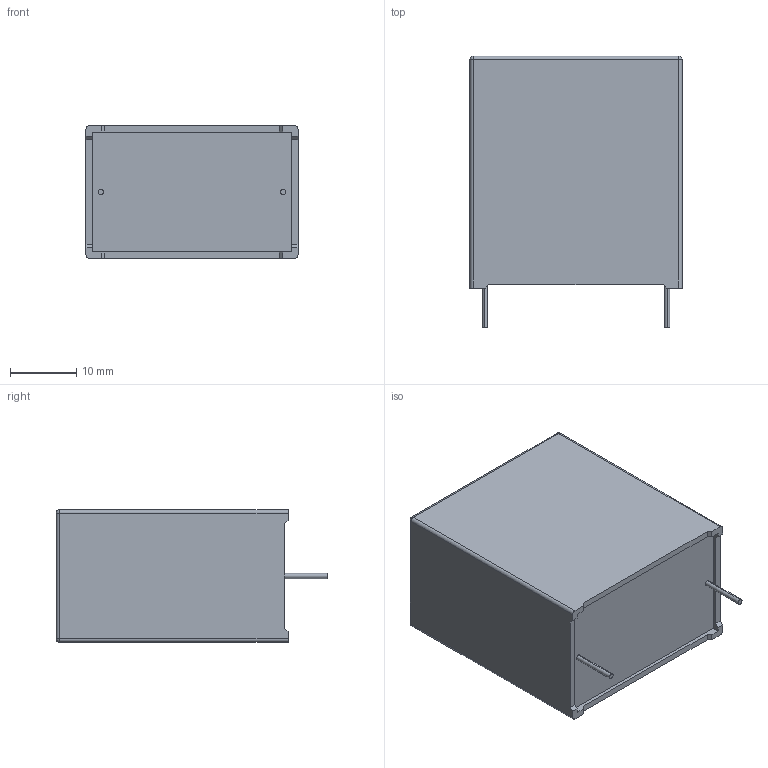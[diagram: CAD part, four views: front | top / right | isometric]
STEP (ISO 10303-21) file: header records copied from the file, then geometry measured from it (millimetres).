
FILE_DESCRIPTION (( 'STEP AP203' ), '1' );
FILE_NAME ('DC_Link_20x35x32_2pins.step', '2017-04-03T15:59:48', ( 'work' ), ( 'Hewlett-Packard Company' ), 'SwSTEP 2.0', 'SolidWorks 2017', '' );
FILE_SCHEMA (( 'CONFIG_CONTROL_DESIGN' ));
Length unit declared in the file: millimetre
Products named in the file (1): DC_Link_20x35x32_2pins
Bounding box: 32 x 41 x 20 mm (x, y, z)
Volume: 21808.1 mm3; surface area: 4914 mm2
Topology: 1 solids, 1 shells, 116 faces, 307 edges, 198 vertices
Faces by surface type: plane 80, cylinder 16, bspline 16, sphere 4
Entity records: 4292 total; most frequent: CARTESIAN_POINT 1442, ORIENTED_EDGE 606, DIRECTION 505, EDGE_CURVE 303, VECTOR 239, LINE 239, VERTEX_POINT 198, AXIS2_PLACEMENT_3D 133
